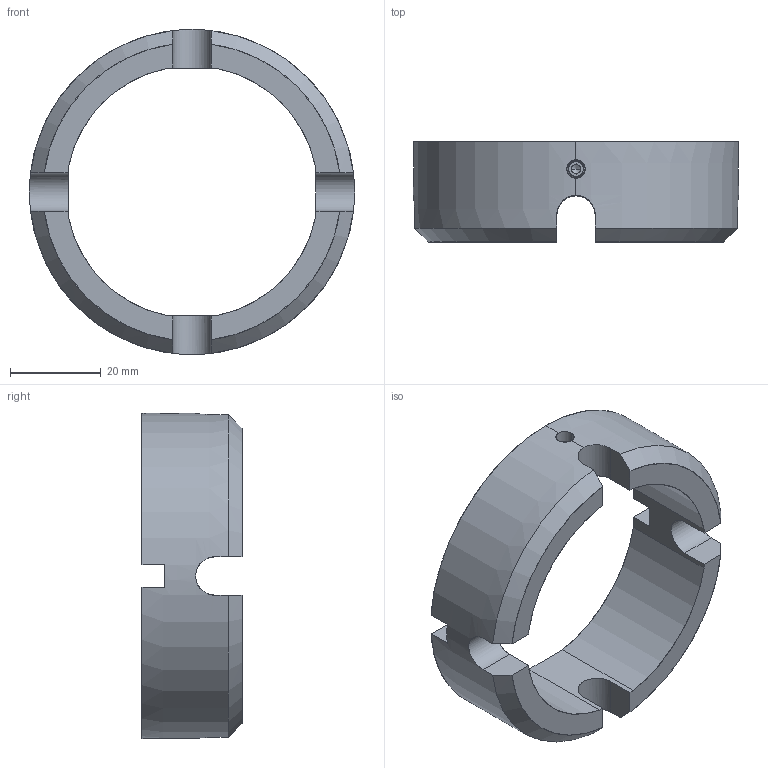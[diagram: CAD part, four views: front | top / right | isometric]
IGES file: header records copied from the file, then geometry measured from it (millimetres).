
Start section: SolidWorks IGES file using analytic representation for surfaces
Bounding box: 71.5 x 22 x 71.5 mm (x, y, z)
Surface area: 11815.6 mm2 (no closed solid volume)
Topology: 0 solids, 0 shells, 79 faces, 1368 edges, 1366 vertices
Faces by surface type: bspline 41, revolution 38
